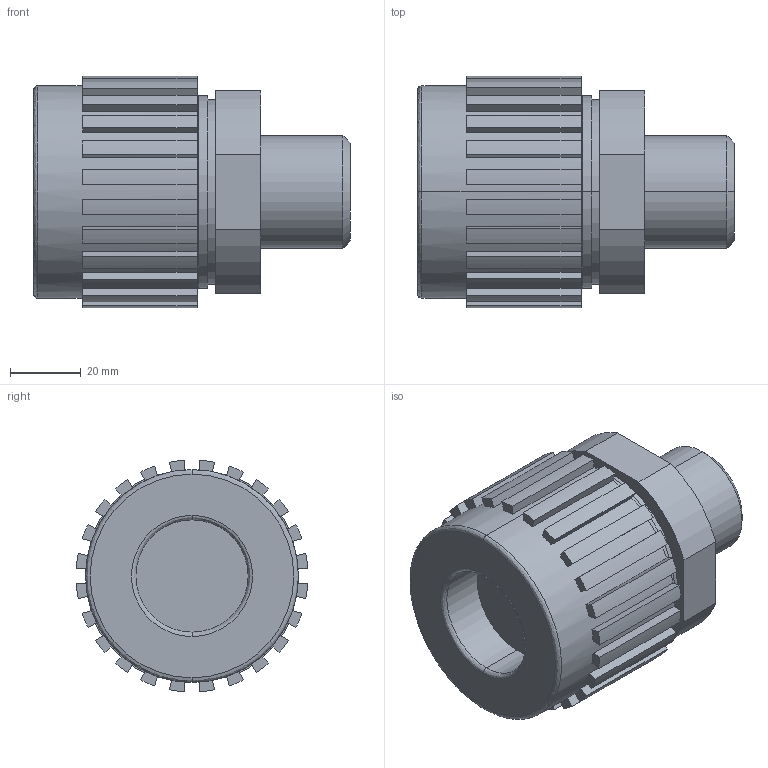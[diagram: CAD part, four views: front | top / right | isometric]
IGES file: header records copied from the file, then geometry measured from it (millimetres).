
Start section: SolidWorks IGES file using analytic representation for surfaces
Global section: file name: S:\Product Visuals\Defeatured Models and Parts Library\Parts Library IGES & STEP\Liquid Fittings\Front Mount liquid Fittings\Pillar S-300\60LPM\Fitting Pillar S-300 20.IGS; native system: SolidWorks 2012; preprocessor: SolidWorks 2012; author: rachel.dressel; date: 120928.152511; units: inch
Bounding box: 89.33 x 65.25 x 65.25 mm (x, y, z)
Volume: 195128.6 mm3; surface area: 28075.2 mm2
Topology: 1 solids, 1 shells, 133 faces, 373 edges, 246 vertices
Faces by surface type: plane 85, revolution 48
